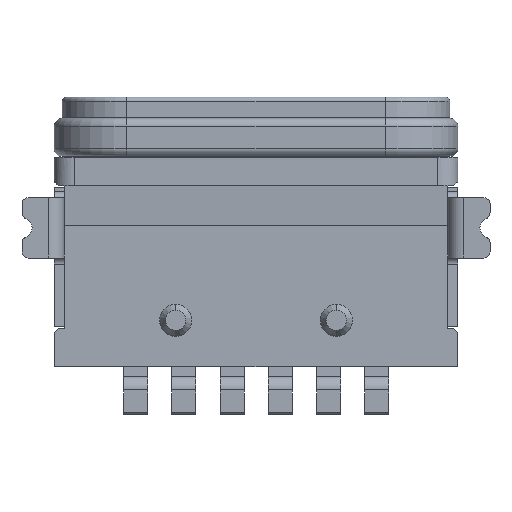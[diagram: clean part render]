
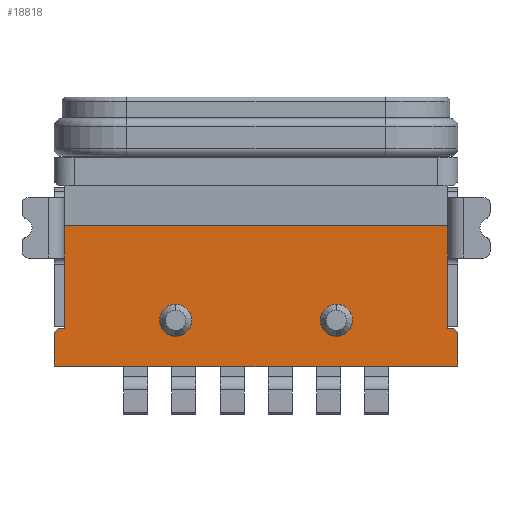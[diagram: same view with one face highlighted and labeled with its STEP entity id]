
A CAD part, front view. The second image highlights one B-rep face of the part: STEP entity #18818.
In plain terms, the highlighted planar face has unit normal (0, -1, 0).
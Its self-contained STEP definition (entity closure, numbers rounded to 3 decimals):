
#3810=DIRECTION('',(0.,0.,-1.));
#3811=VECTOR('',#3810,2.55);
#3812=CARTESIAN_POINT('',(64.277,-32.397,40.767));
#3813=LINE('',#3812,#3811);
#3958=DIRECTION('',(0.,0.,1.));
#3959=VECTOR('',#3958,2.55);
#3960=CARTESIAN_POINT('',(54.737,-32.397,38.217));
#3961=LINE('',#3960,#3959);
#4306=DIRECTION('',(1.,0.,0.));
#4307=VECTOR('',#4306,9.54);
#4308=CARTESIAN_POINT('',(54.737,-32.397,40.767));
#4309=LINE('',#4308,#4307);
#4310=DIRECTION('',(-0.707,0.,0.707));
#4311=VECTOR('',#4310,0.141);
#4312=CARTESIAN_POINT('',(64.527,-32.397,38.117));
#4313=LINE('',#4312,#4311);
#4314=DIRECTION('',(0.,0.,-1.));
#4315=VECTOR('',#4314,0.85);
#4316=CARTESIAN_POINT('',(54.487,-32.397,38.117));
#4317=LINE('',#4316,#4315);
#4318=DIRECTION('',(-0.707,0.,-0.707));
#4319=VECTOR('',#4318,0.141);
#4320=CARTESIAN_POINT('',(54.587,-32.397,38.217));
#4321=LINE('',#4320,#4319);
#4322=CARTESIAN_POINT('',(61.507,-32.397,38.417));
#4323=DIRECTION('',(0.,1.,0.));
#4324=DIRECTION('',(1.,0.,0.));
#4325=AXIS2_PLACEMENT_3D('',#4322,#4323,#4324);
#4327=CARTESIAN_POINT('',(61.507,-32.397,38.417));
#4328=DIRECTION('',(0.,1.,0.));
#4329=DIRECTION('',(-1.,0.,0.));
#4330=AXIS2_PLACEMENT_3D('',#4327,#4328,#4329);
#4332=CARTESIAN_POINT('',(57.507,-32.397,38.417));
#4333=DIRECTION('',(0.,1.,0.));
#4334=DIRECTION('',(1.,0.,0.));
#4335=AXIS2_PLACEMENT_3D('',#4332,#4333,#4334);
#4337=CARTESIAN_POINT('',(57.507,-32.397,38.417));
#4338=DIRECTION('',(0.,1.,0.));
#4339=DIRECTION('',(-1.,0.,0.));
#4340=AXIS2_PLACEMENT_3D('',#4337,#4338,#4339);
#4357=DIRECTION('',(1.,0.,0.));
#4358=VECTOR('',#4357,0.15);
#4359=CARTESIAN_POINT('',(64.277,-32.397,38.217));
#4360=LINE('',#4359,#4358);
#4371=DIRECTION('',(1.,0.,0.));
#4372=VECTOR('',#4371,0.15);
#4373=CARTESIAN_POINT('',(54.587,-32.397,38.217));
#4374=LINE('',#4373,#4372);
#4459=DIRECTION('',(-1.,0.,0.));
#4460=VECTOR('',#4459,1.8);
#4461=CARTESIAN_POINT('',(56.287,-32.397,37.267));
#4462=LINE('',#4461,#4460);
#4463=DIRECTION('',(-1.,0.,0.));
#4464=VECTOR('',#4463,6.44);
#4465=CARTESIAN_POINT('',(62.727,-32.397,37.267));
#4466=LINE('',#4465,#4464);
#4467=DIRECTION('',(-1.,0.,0.));
#4468=VECTOR('',#4467,1.8);
#4469=CARTESIAN_POINT('',(64.527,-32.397,37.267));
#4470=LINE('',#4469,#4468);
#4530=DIRECTION('',(0.,0.,-1.));
#4531=VECTOR('',#4530,0.85);
#4532=CARTESIAN_POINT('',(64.527,-32.397,38.117));
#4533=LINE('',#4532,#4531);
#12519=CARTESIAN_POINT('',(64.277,-32.397,
40.767));
#12521=VERTEX_POINT('',#12519);
#12524=CARTESIAN_POINT('',(54.737,-32.397,
40.767));
#12525=VERTEX_POINT('',#12524);
#12547=CARTESIAN_POINT('',(54.587,-32.397,
38.217));
#12548=CARTESIAN_POINT('',(54.487,-32.397,
38.117));
#12549=VERTEX_POINT('',#12547);
#12550=VERTEX_POINT('',#12548);
#12567=CARTESIAN_POINT('',(64.527,-32.397,
38.117));
#12568=CARTESIAN_POINT('',(64.427,-32.397,
38.217));
#12569=VERTEX_POINT('',#12567);
#12570=VERTEX_POINT('',#12568);
#12617=CARTESIAN_POINT('',(54.737,-32.397,
38.217));
#12618=VERTEX_POINT('',#12617);
#12619=CARTESIAN_POINT('',(64.277,-32.397,
38.217));
#12620=VERTEX_POINT('',#12619);
#12637=CARTESIAN_POINT('',(54.487,-32.397,
37.267));
#12638=VERTEX_POINT('',#12637);
#12649=CARTESIAN_POINT('',(64.527,-32.397,
37.267));
#12650=VERTEX_POINT('',#12649);
#12651=CARTESIAN_POINT('',(62.727,-32.397,
37.267));
#12652=VERTEX_POINT('',#12651);
#12653=CARTESIAN_POINT('',(56.287,-32.397,
37.267));
#12654=VERTEX_POINT('',#12653);
#12831=CARTESIAN_POINT('',(61.907,-32.397,
38.417));
#12832=CARTESIAN_POINT('',(61.108,-32.397,
38.417));
#12833=VERTEX_POINT('',#12831);
#12834=VERTEX_POINT('',#12832);
#12847=CARTESIAN_POINT('',(57.907,-32.397,
38.417));
#12848=CARTESIAN_POINT('',(57.108,-32.397,
38.417));
#12849=VERTEX_POINT('',#12847);
#12850=VERTEX_POINT('',#12848);
#18778=CARTESIAN_POINT('',(56.159,-32.397,
37.187));
#18779=DIRECTION('',(0.,1.,0.));
#18780=DIRECTION('',(-1.,0.,0.));
#18781=AXIS2_PLACEMENT_3D('',#18778,#18779,#18780);
#18782=PLANE('',#18781);
#18783=ORIENTED_EDGE('',*,*,#18091,.T.);
#18785=ORIENTED_EDGE('',*,*,#18784,.T.);
#18787=ORIENTED_EDGE('',*,*,#18786,.F.);
#18789=ORIENTED_EDGE('',*,*,#18788,.T.);
#18791=ORIENTED_EDGE('',*,*,#18790,.T.);
#18793=ORIENTED_EDGE('',*,*,#18792,.T.);
#18795=ORIENTED_EDGE('',*,*,#18794,.T.);
#18797=ORIENTED_EDGE('',*,*,#18796,.F.);
#18799=ORIENTED_EDGE('',*,*,#18798,.F.);
#18801=ORIENTED_EDGE('',*,*,#18800,.T.);
#18802=ORIENTED_EDGE('',*,*,#18279,.T.);
#18803=ORIENTED_EDGE('',*,*,#18771,.T.);
#18804=EDGE_LOOP('',(#18783,#18785,#18787,#18789,#18791,#18793,#18795,#18797,
#18799,#18801,#18802,#18803));
#18805=FACE_OUTER_BOUND('',#18804,.F.);
#18807=ORIENTED_EDGE('',*,*,#18806,.F.);
#18809=ORIENTED_EDGE('',*,*,#18808,.F.);
#18810=EDGE_LOOP('',(#18807,#18809));
#18811=FACE_BOUND('',#18810,.F.);
#18813=ORIENTED_EDGE('',*,*,#18812,.F.);
#18815=ORIENTED_EDGE('',*,*,#18814,.F.);
#18816=EDGE_LOOP('',(#18813,#18815));
#18817=FACE_BOUND('',#18816,.F.);
#4326=CIRCLE('',#4325,0.4);
#4331=CIRCLE('',#4330,0.4);
#4336=CIRCLE('',#4335,0.4);
#4341=CIRCLE('',#4340,0.4);
#18091=EDGE_CURVE('',#12521,#12620,#3813,.T.);
#18279=EDGE_CURVE('',#12618,#12525,#3961,.T.);
#18771=EDGE_CURVE('',#12525,#12521,#4309,.T.);
#18784=EDGE_CURVE('',#12620,#12570,#4360,.T.);
#18786=EDGE_CURVE('',#12569,#12570,#4313,.T.);
#18788=EDGE_CURVE('',#12569,#12650,#4533,.T.);
#18790=EDGE_CURVE('',#12650,#12652,#4470,.T.);
#18792=EDGE_CURVE('',#12652,#12654,#4466,.T.);
#18794=EDGE_CURVE('',#12654,#12638,#4462,.T.);
#18796=EDGE_CURVE('',#12550,#12638,#4317,.T.);
#18798=EDGE_CURVE('',#12549,#12550,#4321,.T.);
#18800=EDGE_CURVE('',#12549,#12618,#4374,.T.);
#18806=EDGE_CURVE('',#12833,#12834,#4326,.T.);
#18808=EDGE_CURVE('',#12834,#12833,#4331,.T.);
#18812=EDGE_CURVE('',#12849,#12850,#4336,.T.);
#18814=EDGE_CURVE('',#12850,#12849,#4341,.T.);
#18818=ADVANCED_FACE('',(#18805,#18811,#18817),#18782,.F.);
